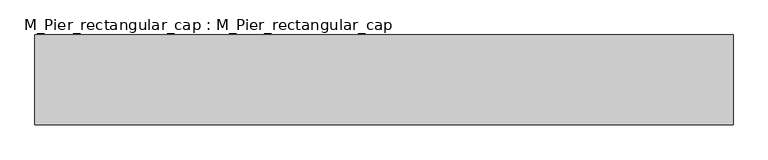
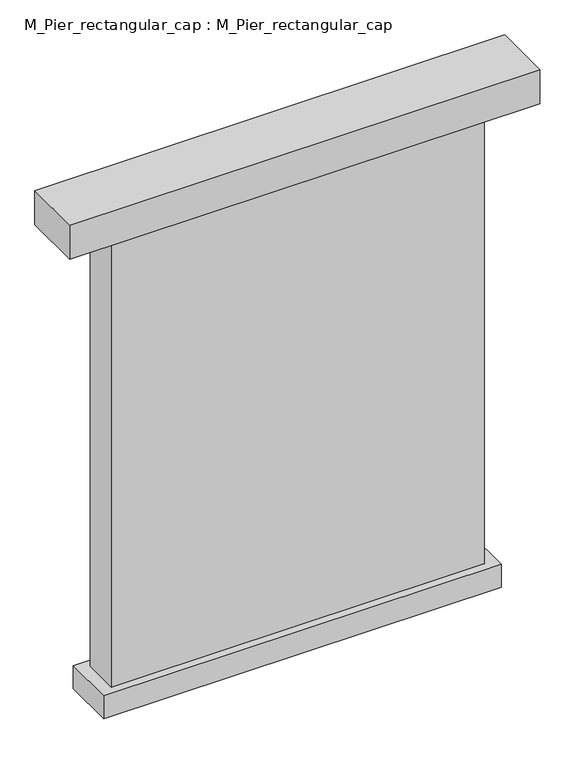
"""IFC4 building model written with IfcOpenShell, lengths in millimetres: proxy geometry, M_Pier_rectangular_cap : M_Pier_rectangular_cap."""

from ifc_helpers import new_model, si_unit, frame, origin, place, context, project, spatial, polyline, outline, extrude, source, transform, mapped, element, save


def m_pier_rectangular_cap_m_pier_rectangular_cap_6be5956a(model_context):
    return source(origin(), model_context, "Body", "SweptSolid", [
        extrude(outline(polyline([(4940.0, 650.0), (4940.0, -650.0), (-4940.0, -650.0), (-4940.0, 650.0), (4940.0, 650.0)])), frame((0.0, 0.0, -13345.8746754), z_axis=(0.0, 0.0, 1.0), x_axis=(1.0, 0.0, 0.0)), (0.0, 0.0, 1.0), 600.0),
        extrude(outline(polyline([(4640.0, 450.0), (4640.0, -450.0), (-4640.0, -450.0), (-4640.0, 450.0), (4640.0, 450.0)])), frame((0.0, 0.0, -12745.8746754), z_axis=(0.0, 0.0, 1.0), x_axis=(1.0, 0.0, 0.0)), (0.0, 0.0, 1.0), 11845.8746754),
        extrude(outline(polyline([(5840.0, 750.0), (5840.0, -750.0), (-5840.0, -750.0), (-5840.0, 750.0), (5840.0, 750.0)])), frame((0.0, 0.0, -900.0), z_axis=(0.0, 0.0, 1.0), x_axis=(1.0, 0.0, 0.0)), (0.0, 0.0, 1.0), 900.0),
    ])


if __name__ == "__main__":
    model = new_model("IFC4")
    model_context = context("Model", 3, world=origin())
    ifc_project = project(units=[si_unit("LENGTHUNIT", "METRE", prefix="MILLI")], contexts=[model_context])
    site = spatial("IfcSite", under=ifc_project)
    building = spatial("IfcBuilding", under=site)
    placement = place(None, origin())
    m_pier_rectangular_cap_m_pier_rectangular_cap_shape = m_pier_rectangular_cap_m_pier_rectangular_cap_6be5956a(model_context)
    element("IfcBuildingElementProxy", 1, Name="M_Pier_rectangular_cap : M_Pier_rectangular_cap", ObjectType="M_Pier_rectangular_cap : M_Pier_rectangular_cap", at=placement, inside=building, context=model_context, shape_type="MappedRepresentation", body=[
        mapped(m_pier_rectangular_cap_m_pier_rectangular_cap_shape, transform((0.0, 0.0, 0.0), x_axis=(1.0, 0.0, 0.0), y_axis=(0.0, 1.0, 0.0), z_axis=(0.0, 0.0, 1.0))),
    ])
    save(model, "model.ifc")
